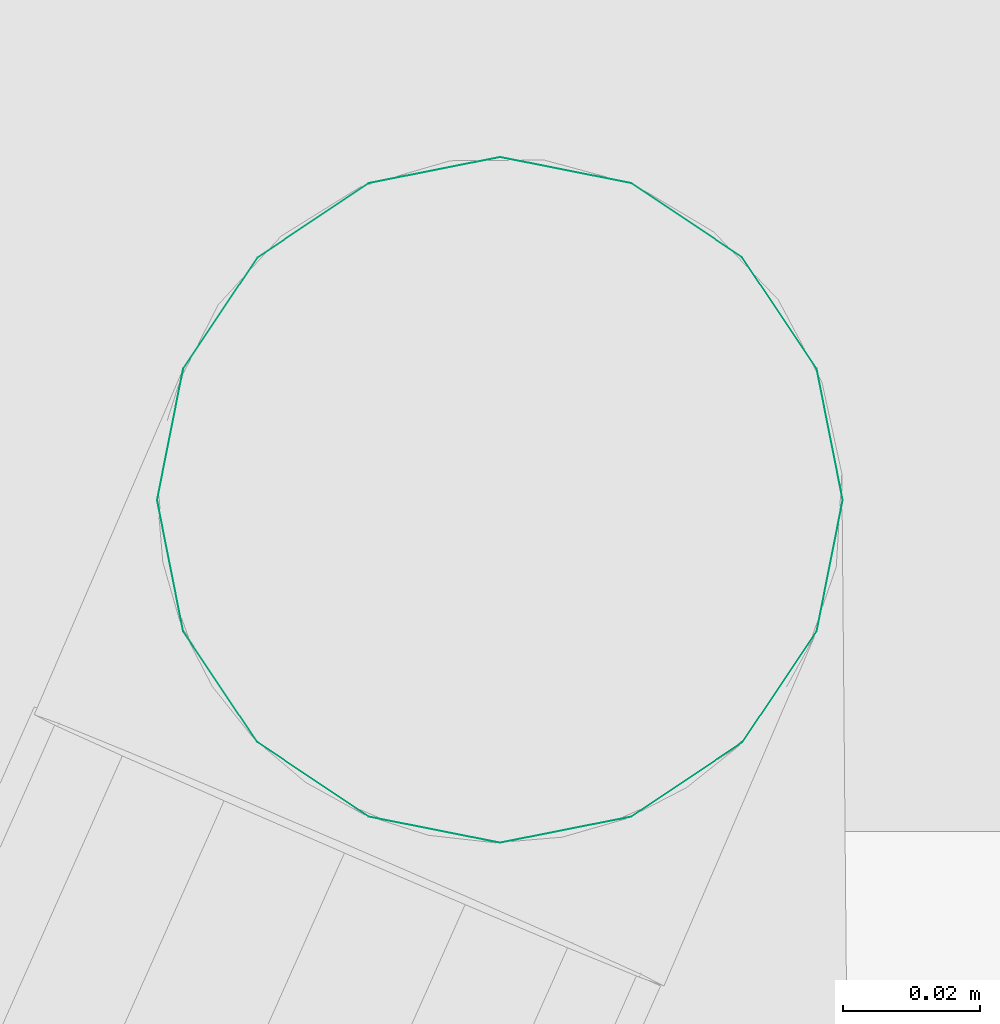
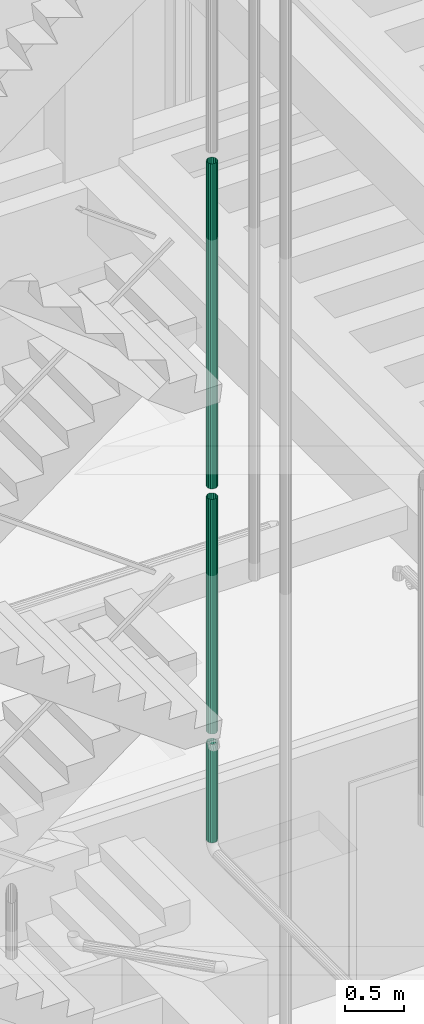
# One storey, part 52 of 108: 3 flow segments.
"""IFC2X3 building model written with IfcOpenShell, lengths in metres."""

from ifc_helpers import new_model, entity, si_unit, converted_unit, derived_unit, money_unit, direction, frame, origin_with_axes, place, context, subcontext, project, spatial, faceted_brep, material, type_object, element, save


model = new_model("IFC2X3")

# Units and contexts
model_context = context("Model", 3, precision=1e-05, world=origin_with_axes(), true_north=direction((0.0, 1.0)))
body_context = subcontext(model_context, "Body", "Model", "MODEL_VIEW", scale=1.0)
ifc_project = project(units=[si_unit("LENGTHUNIT", "METRE"), si_unit("AREAUNIT", "SQUARE_METRE"), si_unit("VOLUMEUNIT", "CUBIC_METRE"), si_unit("ABSORBEDDOSEUNIT", "GRAY"), si_unit("AMOUNTOFSUBSTANCEUNIT", "MOLE"), si_unit("DOSEEQUIVALENTUNIT", "SIEVERT"), si_unit("ELECTRICCAPACITANCEUNIT", "FARAD"), si_unit("ELECTRICCHARGEUNIT", "COULOMB"), si_unit("ELECTRICCONDUCTANCEUNIT", "SIEMENS"), si_unit("ELECTRICCURRENTUNIT", "AMPERE"), si_unit("ELECTRICRESISTANCEUNIT", "OHM"), si_unit("ELECTRICVOLTAGEUNIT", "VOLT"), si_unit("ENERGYUNIT", "JOULE"), si_unit("FORCEUNIT", "NEWTON"), si_unit("FREQUENCYUNIT", "HERTZ"), si_unit("ILLUMINANCEUNIT", "LUX"), si_unit("INDUCTANCEUNIT", "HENRY"), si_unit("LUMINOUSFLUXUNIT", "LUMEN"), si_unit("LUMINOUSINTENSITYUNIT", "CANDELA"), si_unit("MAGNETICFLUXDENSITYUNIT", "TESLA"), si_unit("MAGNETICFLUXUNIT", "WEBER"), si_unit("MASSUNIT", "GRAM"), converted_unit("PLANEANGLEUNIT", "degree", entity("IfcReal", 0.0174532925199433), si_unit("PLANEANGLEUNIT", "RADIAN"), dimensions=[0, 0, 0, 0, 0, 0, 0]), si_unit("POWERUNIT", "WATT"), si_unit("PRESSUREUNIT", "PASCAL"), si_unit("RADIOACTIVITYUNIT", "BECQUEREL"), si_unit("SOLIDANGLEUNIT", "STERADIAN"), si_unit("THERMODYNAMICTEMPERATUREUNIT", "KELVIN"), si_unit("TIMEUNIT", "SECOND"), derived_unit("ACCELERATIONUNIT", [(si_unit("LENGTHUNIT", "METRE"), 1), (si_unit("TIMEUNIT", "SECOND"), -2)]), derived_unit("ANGULARVELOCITYUNIT", [(converted_unit("PLANEANGLEUNIT", "degree", entity("IfcReal", 0.0174532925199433), si_unit("PLANEANGLEUNIT", "RADIAN"), dimensions=[0, 0, 0, 0, 0, 0, 0]), 1), (si_unit("TIMEUNIT", "SECOND"), -1)]), derived_unit("CURVATUREUNIT", [(converted_unit("PLANEANGLEUNIT", "degree", entity("IfcReal", 0.0174532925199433), si_unit("PLANEANGLEUNIT", "RADIAN"), dimensions=[0, 0, 0, 0, 0, 0, 0]), 1), (si_unit("LENGTHUNIT", "METRE"), -1)]), derived_unit("DYNAMICVISCOSITYUNIT", [(si_unit("PRESSUREUNIT", "PASCAL"), 1), (si_unit("TIMEUNIT", "SECOND"), 1)]), derived_unit("HEATFLUXDENSITYUNIT", [(si_unit("POWERUNIT", "WATT"), 1), (si_unit("LENGTHUNIT", "METRE"), -2)]), derived_unit("HEATINGVALUEUNIT", [(si_unit("ENERGYUNIT", "JOULE"), 1), (si_unit("MASSUNIT", "GRAM"), -1)]), derived_unit("INTEGERCOUNTRATEUNIT", [(si_unit("TIMEUNIT", "SECOND"), -1)]), derived_unit("IONCONCENTRATIONUNIT", [(si_unit("MASSUNIT", "GRAM"), 1), (si_unit("VOLUMEUNIT", "CUBIC_METRE"), -1)]), derived_unit("ISOTHERMALMOISTURECAPACITYUNIT", [(si_unit("VOLUMEUNIT", "CUBIC_METRE"), 1), (si_unit("MASSUNIT", "GRAM"), -1)]), derived_unit("KINEMATICVISCOSITYUNIT", [(si_unit("AREAUNIT", "SQUARE_METRE"), 1), (si_unit("TIMEUNIT", "SECOND"), -1)]), derived_unit("LINEARFORCEUNIT", [(si_unit("FORCEUNIT", "NEWTON"), 1), (si_unit("LENGTHUNIT", "METRE"), -1)]), derived_unit("LINEARMOMENTUNIT", [(si_unit("FORCEUNIT", "NEWTON"), 1), (si_unit("LENGTHUNIT", "METRE"), -1)]), derived_unit("LINEARSTIFFNESSUNIT", [(si_unit("FORCEUNIT", "NEWTON"), 1), (si_unit("LENGTHUNIT", "METRE"), -1)]), derived_unit("LINEARVELOCITYUNIT", [(si_unit("LENGTHUNIT", "METRE"), 1), (si_unit("TIMEUNIT", "SECOND"), -1)]), derived_unit("LUMINOUSINTENSITYDISTRIBUTIONUNIT", [(si_unit("LUMINOUSINTENSITYUNIT", "CANDELA"), 1), (si_unit("LUMINOUSFLUXUNIT", "LUMEN"), -1)]), derived_unit("MASSDENSITYUNIT", [(si_unit("MASSUNIT", "GRAM"), 1), (si_unit("VOLUMEUNIT", "CUBIC_METRE"), -1)]), derived_unit("MASSFLOWRATEUNIT", [(si_unit("MASSUNIT", "GRAM"), 1), (si_unit("TIMEUNIT", "SECOND"), -1)]), derived_unit("MASSPERLENGTHUNIT", [(si_unit("MASSUNIT", "GRAM"), 1), (si_unit("LENGTHUNIT", "METRE"), -1)]), derived_unit("MODULUSOFELASTICITYUNIT", [(si_unit("FORCEUNIT", "NEWTON"), 1), (si_unit("AREAUNIT", "SQUARE_METRE"), -1)]), derived_unit("MODULUSOFLINEARSUBGRADEREACTIONUNIT", [(si_unit("FORCEUNIT", "NEWTON"), 1), (si_unit("LENGTHUNIT", "METRE"), -2)]), derived_unit("MODULUSOFROTATIONALSUBGRADEREACTIONUNIT", [(si_unit("FORCEUNIT", "NEWTON"), 1), (si_unit("LENGTHUNIT", "METRE"), 1)]), derived_unit("MODULUSOFSUBGRADEREACTIONUNIT", [(si_unit("FORCEUNIT", "NEWTON"), 1), (si_unit("VOLUMEUNIT", "CUBIC_METRE"), -1)]), derived_unit("MOISTUREDIFFUSIVITYUNIT", [(si_unit("VOLUMEUNIT", "CUBIC_METRE"), 1), (si_unit("TIMEUNIT", "SECOND"), -1)]), derived_unit("MOLECULARWEIGHTUNIT", [(si_unit("MASSUNIT", "GRAM"), 1), (si_unit("AMOUNTOFSUBSTANCEUNIT", "MOLE"), -1)]), derived_unit("PLANARFORCEUNIT", [(si_unit("FORCEUNIT", "NEWTON"), 1), (si_unit("LENGTHUNIT", "METRE"), -2)]), derived_unit("ROTATIONALFREQUENCYUNIT", [(si_unit("TIMEUNIT", "SECOND"), -1)]), derived_unit("ROTATIONALMASSUNIT", [(si_unit("MASSUNIT", "GRAM"), 1), (si_unit("LENGTHUNIT", "METRE"), 2)]), derived_unit("ROTATIONALSTIFFNESSUNIT", [(si_unit("FORCEUNIT", "NEWTON"), 1), (si_unit("LENGTHUNIT", "METRE"), 1), (converted_unit("PLANEANGLEUNIT", "degree", entity("IfcReal", 0.0174532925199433), si_unit("PLANEANGLEUNIT", "RADIAN"), dimensions=[0, 0, 0, 0, 0, 0, 0]), -1)]), derived_unit("SECTIONAREAINTEGRALUNIT", [(si_unit("LENGTHUNIT", "METRE"), 5)]), derived_unit("SECTIONMODULUSUNIT", [(si_unit("LENGTHUNIT", "METRE"), 3)]), derived_unit("SHEARMODULUSUNIT", [(si_unit("FORCEUNIT", "NEWTON"), 1), (si_unit("AREAUNIT", "SQUARE_METRE"), -1)]), derived_unit("SOUNDPOWERUNIT", [(si_unit("ENERGYUNIT", "JOULE"), 1), (si_unit("TIMEUNIT", "SECOND"), -1)]), derived_unit("SPECIFICHEATCAPACITYUNIT", [(si_unit("FORCEUNIT", "NEWTON"), 1), (si_unit("MASSUNIT", "GRAM"), -1), (si_unit("THERMODYNAMICTEMPERATUREUNIT", "KELVIN"), -1)]), derived_unit("TEMPERATUREGRADIENTUNIT", [(si_unit("THERMODYNAMICTEMPERATUREUNIT", "KELVIN"), 1), (si_unit("LENGTHUNIT", "METRE"), -1)]), derived_unit("THERMALADMITTANCEUNIT", [(si_unit("POWERUNIT", "WATT"), 1), (si_unit("AREAUNIT", "SQUARE_METRE"), -1), (si_unit("THERMODYNAMICTEMPERATUREUNIT", "KELVIN"), -1)]), derived_unit("THERMALCONDUCTANCEUNIT", [(si_unit("POWERUNIT", "WATT"), 1), (si_unit("LENGTHUNIT", "METRE"), -1), (si_unit("THERMODYNAMICTEMPERATUREUNIT", "KELVIN"), -1)]), derived_unit("THERMALEXPANSIONCOEFFICIENTUNIT", [(si_unit("THERMODYNAMICTEMPERATUREUNIT", "KELVIN"), -1)]), derived_unit("THERMALRESISTANCEUNIT", [(si_unit("AREAUNIT", "SQUARE_METRE"), 1), (si_unit("POWERUNIT", "WATT"), -1)]), derived_unit("THERMALTRANSMITTANCEUNIT", [(si_unit("POWERUNIT", "WATT"), 1), (si_unit("AREAUNIT", "SQUARE_METRE"), -1), (si_unit("THERMODYNAMICTEMPERATUREUNIT", "KELVIN"), -1)]), derived_unit("TORQUEUNIT", [(si_unit("FORCEUNIT", "NEWTON"), 1), (si_unit("LENGTHUNIT", "METRE"), 1)]), derived_unit("VAPORPERMEABILITYUNIT", [(si_unit("MASSUNIT", "GRAM"), 1), (si_unit("TIMEUNIT", "SECOND"), -1)]), derived_unit("VOLUMETRICFLOWRATEUNIT", [(si_unit("VOLUMEUNIT", "CUBIC_METRE"), 1), (si_unit("TIMEUNIT", "SECOND"), -1)]), derived_unit("WARPINGCONSTANTUNIT", [(si_unit("LENGTHUNIT", "METRE"), 6)]), derived_unit("WARPINGMOMENTUNIT", [(si_unit("FORCEUNIT", "NEWTON"), 1), (si_unit("LENGTHUNIT", "METRE"), 2)]), money_unit("GBP")], contexts=[model_context])

# Site, building, storey
site_placement = place(None, origin_with_axes())
site = spatial("IfcSite", under=ifc_project, at=site_placement, Name="Site", CompositionType="ELEMENT")
building_placement = place(site_placement, origin_with_axes())
building = spatial("IfcBuilding", under=site, at=building_placement, Name="Building01", CompositionType="ELEMENT")
storey_placement = place(building_placement, origin_with_axes())
storey = spatial("IfcBuildingStorey", under=building, at=storey_placement, Name="GF", CompositionType="ELEMENT", Elevation=0.0)

# Flow segments
ifc_material = material(Name="M_BSUK_ColdWater")
pipe_segment_type = type_object("IfcPipeSegmentType", Name="M-BmpStraightpipe-DefaultPipe", PredefinedType="RIGIDSEGMENT")
flow_segment_1_placement = place(storey_placement, frame((15.604265, 8.57241, 3.344919), z_axis=(1.0, 0.0, 0.0), x_axis=(0.0, 0.0, -1.0)))
element("IfcFlowSegment", 1, at=flow_segment_1_placement, inside=storey, type_object=pipe_segment_type, material=ifc_material, Name="M-BmpStraightpipe-DefaultPipe", ObjectType="M-BmpStraightpipe-DefaultPipe", context=body_context, shape_type="Brep", body=[
    faceted_brep([(1.019919, 0.0, -0.05), (0.0, 0.0, -0.05), (0.0, 0.019134, -0.046194), (1.019919, 0.019134, -0.046194), (0.0, 0.035355, -0.035355), (1.019919, 0.035355, -0.035355), (0.0, 0.046194, -0.019134), (1.019919, 0.046194, -0.019134), (0.0, 0.05, 0.0), (1.019919, 0.05, 0.0), (0.0, 0.046194, 0.019134), (1.019919, 0.046194, 0.019134), (0.0, 0.035355, 0.035355), (1.019919, 0.035355, 0.035355), (0.0, 0.019134, 0.046194), (1.019919, 0.019134, 0.046194), (0.0, 0.0, 0.05), (1.019919, 0.0, 0.05), (0.0, -0.019134, 0.046194), (1.019919, -0.019134, 0.046194), (0.0, -0.035355, 0.035355), (1.019919, -0.035355, 0.035355), (0.0, -0.046194, 0.019134), (1.019919, -0.046194, 0.019134), (0.0, -0.05, 0.0), (1.019919, -0.05, 0.0), (0.0, -0.046194, -0.019134), (1.019919, -0.046194, -0.019134), (0.0, -0.035355, -0.035355), (1.019919, -0.035355, -0.035355), (0.0, -0.019134, -0.046194), (1.019919, -0.019134, -0.046194)], [[[0, 1, 2, 3]], [[3, 2, 4, 5]], [[5, 4, 6, 7]], [[7, 6, 8, 9]], [[9, 8, 10, 11]], [[11, 10, 12, 13]], [[13, 12, 14, 15]], [[15, 14, 16, 17]], [[17, 16, 18, 19]], [[19, 18, 20, 21]], [[21, 20, 22, 23]], [[23, 22, 24, 25]], [[25, 24, 26, 27]], [[27, 26, 28, 29]], [[29, 28, 30, 31]], [[31, 30, 1, 0]]]),
])
flow_segment_2_placement = place(storey_placement, frame((15.604265, 8.57241, 5.894919), z_axis=(1.0, 0.0, 0.0), x_axis=(0.0, 0.0, -1.0)))
element("IfcFlowSegment", 2, at=flow_segment_2_placement, inside=storey, type_object=pipe_segment_type, material=ifc_material, Name="M-BmpStraightpipe-DefaultPipe", ObjectType="M-BmpStraightpipe-DefaultPipe", context=body_context, shape_type="Brep", body=[
    faceted_brep([(2.439988, 0.0, -0.05), (0.0, 0.0, -0.05), (0.0, 0.019134, -0.046194), (2.439988, 0.019134, -0.046194), (0.0, 0.035355, -0.035355), (2.439988, 0.035355, -0.035355), (0.0, 0.046194, -0.019134), (2.439988, 0.046194, -0.019134), (0.0, 0.05, 0.0), (2.439988, 0.05, 0.0), (0.0, 0.046194, 0.019134), (2.439988, 0.046194, 0.019134), (0.0, 0.035355, 0.035355), (2.439988, 0.035355, 0.035355), (0.0, 0.019134, 0.046194), (2.439988, 0.019134, 0.046194), (0.0, 0.0, 0.05), (2.439988, 0.0, 0.05), (0.0, -0.019134, 0.046194), (2.439988, -0.019134, 0.046194), (0.0, -0.035355, 0.035355), (2.439988, -0.035355, 0.035355), (0.0, -0.046194, 0.019134), (2.439988, -0.046194, 0.019134), (0.0, -0.05, 0.0), (2.439988, -0.05, 0.0), (0.0, -0.046194, -0.019134), (2.439988, -0.046194, -0.019134), (0.0, -0.035355, -0.035355), (2.439988, -0.035355, -0.035355), (0.0, -0.019134, -0.046194), (2.439988, -0.019134, -0.046194)], [[[0, 1, 2, 3]], [[3, 2, 4, 5]], [[5, 4, 6, 7]], [[7, 6, 8, 9]], [[9, 8, 10, 11]], [[11, 10, 12, 13]], [[13, 12, 14, 15]], [[15, 14, 16, 17]], [[17, 16, 18, 19]], [[19, 18, 20, 21]], [[21, 20, 22, 23]], [[23, 22, 24, 25]], [[25, 24, 26, 27]], [[27, 26, 28, 29]], [[29, 28, 30, 31]], [[31, 30, 1, 0]]]),
])
flow_segment_3_placement = place(storey_placement, frame((15.604265, 8.57241, 9.384919), z_axis=(1.0, 0.0, 0.0), x_axis=(0.0, 0.0, -1.0)))
element("IfcFlowSegment", 3, at=flow_segment_3_placement, inside=storey, type_object=pipe_segment_type, material=ifc_material, Name="M-BmpStraightpipe-DefaultPipe", ObjectType="M-BmpStraightpipe-DefaultPipe", context=body_context, shape_type="Brep", body=[
    faceted_brep([(3.379988, 0.0, -0.05), (0.0, 0.0, -0.05), (0.0, 0.019134, -0.046194), (3.379988, 0.019134, -0.046194), (0.0, 0.035355, -0.035355), (3.379988, 0.035355, -0.035355), (0.0, 0.046194, -0.019134), (3.379988, 0.046194, -0.019134), (0.0, 0.05, 0.0), (3.379988, 0.05, 0.0), (0.0, 0.046194, 0.019134), (3.379988, 0.046194, 0.019134), (0.0, 0.035355, 0.035355), (3.379988, 0.035355, 0.035355), (0.0, 0.019134, 0.046194), (3.379988, 0.019134, 0.046194), (0.0, 0.0, 0.05), (3.379988, 0.0, 0.05), (0.0, -0.019134, 0.046194), (3.379988, -0.019134, 0.046194), (0.0, -0.035355, 0.035355), (3.379988, -0.035355, 0.035355), (0.0, -0.046194, 0.019134), (3.379988, -0.046194, 0.019134), (0.0, -0.05, 0.0), (3.379988, -0.05, 0.0), (0.0, -0.046194, -0.019134), (3.379988, -0.046194, -0.019134), (0.0, -0.035355, -0.035355), (3.379988, -0.035355, -0.035355), (0.0, -0.019134, -0.046194), (3.379988, -0.019134, -0.046194)], [[[0, 1, 2, 3]], [[3, 2, 4, 5]], [[5, 4, 6, 7]], [[7, 6, 8, 9]], [[9, 8, 10, 11]], [[11, 10, 12, 13]], [[13, 12, 14, 15]], [[15, 14, 16, 17]], [[17, 16, 18, 19]], [[19, 18, 20, 21]], [[21, 20, 22, 23]], [[23, 22, 24, 25]], [[25, 24, 26, 27]], [[27, 26, 28, 29]], [[29, 28, 30, 31]], [[31, 30, 1, 0]]]),
])

save(model, "model.ifc")
